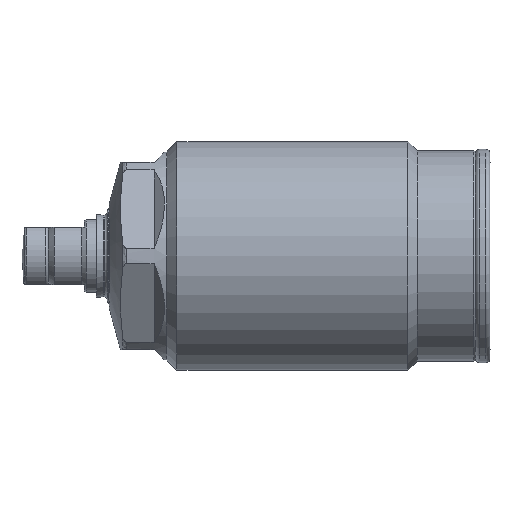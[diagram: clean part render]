
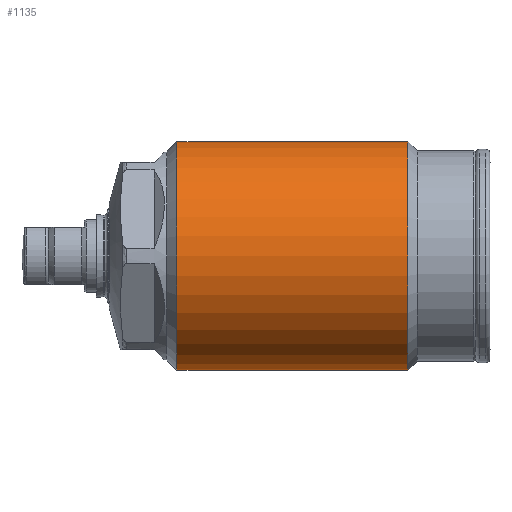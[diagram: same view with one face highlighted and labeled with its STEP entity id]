
A CAD part, left-side view. The second image highlights one B-rep face of the part: STEP entity #1135.
In plain terms, the highlighted cylindrical face has radius 11 mm (diameter 22 mm), a partial arc.
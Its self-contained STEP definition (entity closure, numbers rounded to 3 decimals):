
#937=CYLINDRICAL_SURFACE('',#3716,11.);
#1135=ADVANCED_FACE('',(#1336),#937,.T.);
#1336=FACE_OUTER_BOUND('',#1511,.T.);
#1511=EDGE_LOOP('',(#2316,#2317,#2318,#2319));
#1636=LINE('',#5444,#1736);
#1637=LINE('',#5445,#1737);
#1736=VECTOR('',#4359,1.);
#1737=VECTOR('',#4360,1.);
#2316=ORIENTED_EDGE('',*,*,#3006,.F.);
#2317=ORIENTED_EDGE('',*,*,#3083,.T.);
#2318=ORIENTED_EDGE('',*,*,#3007,.T.);
#2319=ORIENTED_EDGE('',*,*,#3084,.F.);
#2701=VERTEX_POINT('',#5436);
#2702=VERTEX_POINT('',#5438);
#2703=VERTEX_POINT('',#5442);
#2704=VERTEX_POINT('',#5443);
#3006=EDGE_CURVE('',#2704,#2702,#1636,.T.);
#3007=EDGE_CURVE('',#2703,#2701,#1637,.T.);
#3083=EDGE_CURVE('',#2704,#2703,#3347,.T.);
#3084=EDGE_CURVE('',#2702,#2701,#3348,.T.);
#3347=CIRCLE('',#3713,11.);
#3348=CIRCLE('',#3715,11.);
#3713=AXIS2_PLACEMENT_3D('',#5763,#4547,#4548);
#3715=AXIS2_PLACEMENT_3D('',#5765,#4551,#4552);
#3716=AXIS2_PLACEMENT_3D('',#5766,#4553,#4554);
#4359=DIRECTION('',(0.,1.,0.));
#4360=DIRECTION('',(0.,1.,0.));
#4547=DIRECTION('',(0.,1.,0.));
#4548=DIRECTION('',(0.,0.,1.));
#4551=DIRECTION('',(0.,1.,0.));
#4552=DIRECTION('',(0.,0.,1.));
#4553=DIRECTION('',(0.,1.,0.));
#4554=DIRECTION('',(0.,0.,-1.));
#5436=CARTESIAN_POINT('',(0.,32.96,11.));
#5438=CARTESIAN_POINT('',(0.,32.96,-11.));
#5442=CARTESIAN_POINT('',(0.,10.76,11.));
#5443=CARTESIAN_POINT('',(0.,10.76,-11.));
#5444=CARTESIAN_POINT('',(0.,55.482,-11.));
#5445=CARTESIAN_POINT('',(0.,55.482,11.));
#5763=CARTESIAN_POINT('',(0.,10.76,0.));
#5765=CARTESIAN_POINT('',(0.,32.96,0.));
#5766=CARTESIAN_POINT('',(0.,55.482,0.));
